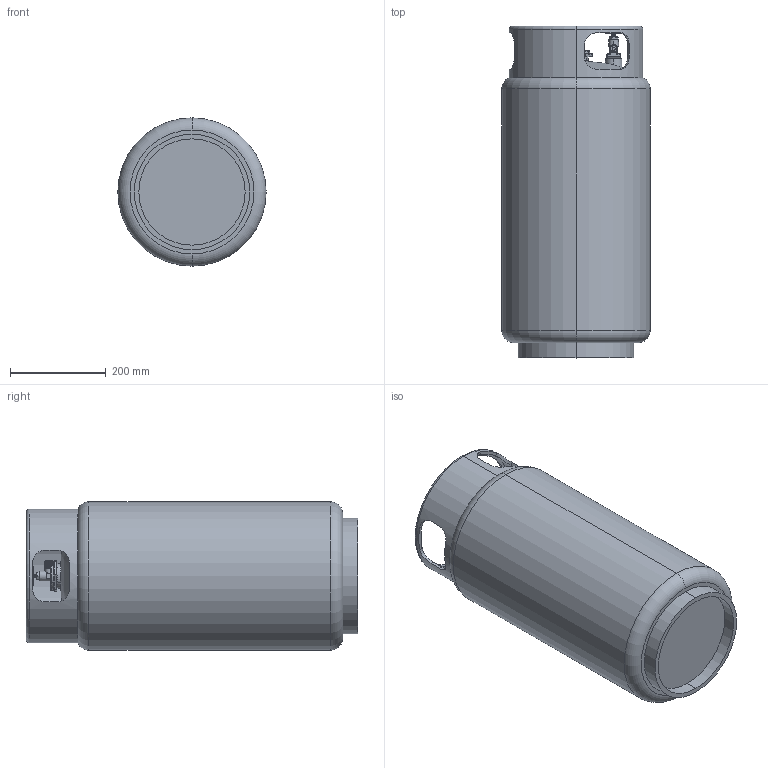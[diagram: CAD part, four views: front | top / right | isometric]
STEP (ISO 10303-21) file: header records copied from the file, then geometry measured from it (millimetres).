
FILE_DESCRIPTION (( 'STEP AP203' ), '1' );
FILE_NAME ('33lb LP Tank.STEP', '2023-08-23T18:58:29', ( '' ), ( '' ), 'SwSTEP 2.0', 'SolidWorks 2020', '' );
FILE_SCHEMA (( 'CONFIG_CONTROL_DESIGN' ));
Length unit declared in the file: inch
Products named in the file (5): 33lb LP Tank; 3610K52_Vertical-Mount Fuel-Level Gauge_3610K52; 33lb Propane Tank; Propane Tank fitting; 77445A61_Valve for Lift Truck Propane Tanks_77445A61
Assembly tree (4 placements, depth 2):
  33lb LP Tank
    33lb Propane Tank
    77445A61_Valve for Lift Truck Propane Tanks_77445A61
    3610K52_Vertical-Mount Fuel-Level Gauge_3610K52
    Propane Tank fitting
Bounding box: 309.88 x 693.42 x 309.88 mm (x, y, z)
Volume: 43955480.4 mm3; surface area: 913491.6 mm2
Topology: 33 solids, 33 shells, 1364 faces, 3453 edges, 2200 vertices
Faces by surface type: plane 558, cylinder 365, bspline 182, torus 122, cone 107, sphere 30
Entity records: 72200 total; most frequent: CARTESIAN_POINT 40462, ORIENTED_EDGE 6878, DIRECTION 5975, EDGE_CURVE 3439, VERTEX_POINT 2200, AXIS2_PLACEMENT_3D 2119, VECTOR 1737, LINE 1737
